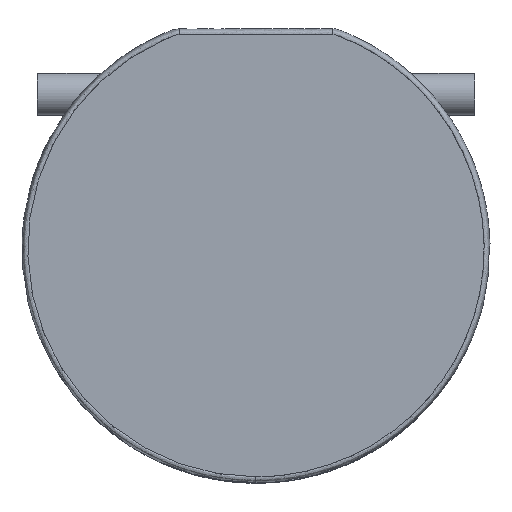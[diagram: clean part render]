
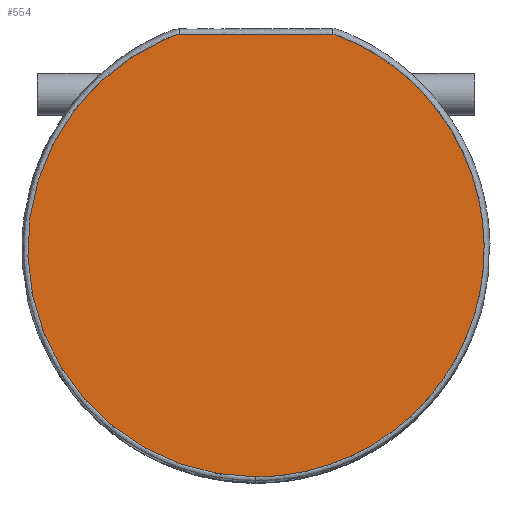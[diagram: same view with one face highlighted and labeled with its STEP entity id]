
A CAD part, top view. The second image highlights one B-rep face of the part: STEP entity #554.
In plain terms, the highlighted planar face has unit normal (0, 0, 1).
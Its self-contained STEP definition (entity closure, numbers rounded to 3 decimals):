
#554=ADVANCED_FACE('',(#1054),#6908,.T.);
#1054=FACE_OUTER_BOUND('',#1572,.T.);
#1572=EDGE_LOOP('',(#3783,#3784,#3785));
#3783=ORIENTED_EDGE('',*,*,#4917,.F.);
#3784=ORIENTED_EDGE('',*,*,#4919,.F.);
#3785=ORIENTED_EDGE('',*,*,#4913,.F.);
#4913=EDGE_CURVE('',#6667,#6670,#5441,.T.);
#4917=EDGE_CURVE('',#6672,#6667,#5445,.T.);
#4919=EDGE_CURVE('',#6670,#6672,#5447,.T.);
#5441=B_SPLINE_CURVE_WITH_KNOTS('',3,(#20366,#20367,#20368,#20369,#20370,
#20371,#20372,#20373,#20374,#20375,#20376,#20377,#20378,#20379,#20380,#20381,
#20382,#20383,#20384,#20385,#20386,#20387,#20388,#20389,#20390,#20391,#20392,
#20393,#20394,#20395,#20396,#20397,#20398,#20399,#20400),.UNSPECIFIED.,
 .F.,.F.,(4,1,1,1,1,1,1,1,1,1,1,1,1,1,1,1,1,1,1,1,1,1,1,1,1,1,1,1,1,1,1,
1,4),(-456.472,-455.787,-455.102,-454.416,
-453.729,-453.048,-452.963,-452.878,
-451.771,-450.663,-448.477,-446.291,
-428.095,-409.421,-390.768,-371.873,
-352.86,-333.858,-314.994,-296.393,
-277.79,-259.682,-238.583,-215.542,-191.57,
-166.883,-141.742,-116.436,-90.748,
-65.516,-41.51,-18.427,0.),.UNSPECIFIED.);
#5445=B_SPLINE_CURVE_WITH_KNOTS('',3,(#20471,#20472,#20473,#20474),
 .UNSPECIFIED.,.F.,.F.,(4,4),(-108.812,0.),.UNSPECIFIED.);
#5447=B_SPLINE_CURVE_WITH_KNOTS('',3,(#20506,#20507,#20508,#20509,#20510,
#20511,#20512,#20513,#20514,#20515,#20516,#20517,#20518,#20519,#20520,#20521,
#20522,#20523,#20524,#20525,#20526,#20527,#20528,#20529,#20530,#20531,#20532,
#20533,#20534,#20535,#20536),.UNSPECIFIED.,.F.,.F.,(4,1,1,1,1,1,1,1,1,1,
1,1,1,1,1,1,1,1,1,1,1,1,1,1,1,1,1,1,4),(-456.44,-434.254,
-411.005,-386.866,-362.063,-336.864,-311.564,
-286.465,-261.856,-237.992,-215.082,
-194.602,-176.805,-158.542,-139.914,
-121.034,-102.026,-83.018,-64.138,
-45.51,-27.247,-9.45,-5.083,
-3.621,-3.579,-3.409,-2.729,
-1.362,0.),.UNSPECIFIED.);
#6667=VERTEX_POINT('',#20292);
#6670=VERTEX_POINT('',#20295);
#6672=VERTEX_POINT('',#20297);
#6908=PLANE('',#7354);
#7354=AXIS2_PLACEMENT_3D('',#17980,#7521,$);
#7521=DIRECTION('',(0.,0.,1.));
#17980=CARTESIAN_POINT('',(-2982.108,-289.711,798.351));
#20292=CARTESIAN_POINT('',(-3092.63,26.579,798.351));
#20295=CARTESIAN_POINT('',(-3147.052,-286.579,798.351));
#20297=CARTESIAN_POINT('',(-3201.442,26.579,798.351));
#20366=CARTESIAN_POINT('',(-3092.63,26.579,798.351));
#20367=CARTESIAN_POINT('',(-3092.434,26.579,798.351));
#20368=CARTESIAN_POINT('',(-3092.043,26.566,798.351));
#20369=CARTESIAN_POINT('',(-3091.457,26.505,798.351));
#20370=CARTESIAN_POINT('',(-3090.877,26.405,798.351));
#20371=CARTESIAN_POINT('',(-3090.306,26.265,798.351));
#20372=CARTESIAN_POINT('',(-3089.91,26.139,798.351));
#20373=CARTESIAN_POINT('',(-3089.682,26.057,798.351));
#20374=CARTESIAN_POINT('',(-3089.31,25.916,798.351));
#20375=CARTESIAN_POINT('',(-3088.589,25.639,798.351));
#20376=CARTESIAN_POINT('',(-3087.24,25.11,798.351));
#20377=CARTESIAN_POINT('',(-3085.56,24.432,798.351));
#20378=CARTESIAN_POINT('',(-3078.682,21.549,798.351));
#20379=CARTESIAN_POINT('',(-3067.098,15.816,798.351));
#20380=CARTESIAN_POINT('',(-3051.653,5.859,798.351));
#20381=CARTESIAN_POINT('',(-3037.267,-5.944,798.351));
#20382=CARTESIAN_POINT('',(-3024.255,-19.403,798.351));
#20383=CARTESIAN_POINT('',(-3012.822,-34.374,798.351));
#20384=CARTESIAN_POINT('',(-3003.214,-50.563,798.351));
#20385=CARTESIAN_POINT('',(-2995.603,-67.633,798.351));
#20386=CARTESIAN_POINT('',(-2990.039,-85.335,798.351));
#20387=CARTESIAN_POINT('',(-2986.574,-103.312,798.351));
#20388=CARTESIAN_POINT('',(-2985.087,-122.384,798.351));
#20389=CARTESIAN_POINT('',(-2985.962,-142.979,798.351));
#20390=CARTESIAN_POINT('',(-2989.954,-165.183,798.351));
#20391=CARTESIAN_POINT('',(-2997.474,-187.719,798.351));
#20392=CARTESIAN_POINT('',(-3008.579,-209.508,798.351));
#20393=CARTESIAN_POINT('',(-3023.131,-229.712,798.351));
#20394=CARTESIAN_POINT('',(-3040.858,-247.67,798.351));
#20395=CARTESIAN_POINT('',(-3061.192,-262.666,798.351));
#20396=CARTESIAN_POINT('',(-3083.226,-274.116,798.351));
#20397=CARTESIAN_POINT('',(-3105.91,-281.84,798.351));
#20398=CARTESIAN_POINT('',(-3127.245,-285.805,798.351));
#20399=CARTESIAN_POINT('',(-3140.964,-286.58,798.351));
#20400=CARTESIAN_POINT('',(-3147.052,-286.579,798.351));
#20471=CARTESIAN_POINT('',(-3201.442,26.579,798.351));
#20472=CARTESIAN_POINT('',(-3165.171,26.579,798.351));
#20473=CARTESIAN_POINT('',(-3128.9,26.579,798.351));
#20474=CARTESIAN_POINT('',(-3092.63,26.579,798.351));
#20506=CARTESIAN_POINT('',(-3147.052,-286.579,798.351));
#20507=CARTESIAN_POINT('',(-3154.383,-286.579,798.351));
#20508=CARTESIAN_POINT('',(-3169.395,-285.554,798.351));
#20509=CARTESIAN_POINT('',(-3191.949,-280.805,798.351));
#20510=CARTESIAN_POINT('',(-3214.394,-272.538,798.351));
#20511=CARTESIAN_POINT('',(-3235.92,-260.694,798.351));
#20512=CARTESIAN_POINT('',(-3255.69,-245.464,798.351));
#20513=CARTESIAN_POINT('',(-3272.942,-227.295,798.351));
#20514=CARTESIAN_POINT('',(-3287.079,-206.847,798.351));
#20515=CARTESIAN_POINT('',(-3297.736,-184.921,798.351));
#20516=CARTESIAN_POINT('',(-3304.809,-162.352,798.351));
#20517=CARTESIAN_POINT('',(-3308.364,-140.361,798.351));
#20518=CARTESIAN_POINT('',(-3308.913,-120.11,798.351));
#20519=CARTESIAN_POINT('',(-3307.227,-101.476,798.351));
#20520=CARTESIAN_POINT('',(-3303.616,-83.741,798.351));
#20521=CARTESIAN_POINT('',(-3297.914,-66.186,798.351));
#20522=CARTESIAN_POINT('',(-3290.131,-49.175,798.351));
#20523=CARTESIAN_POINT('',(-3280.363,-33.074,798.351));
#20524=CARTESIAN_POINT('',(-3268.788,-18.22,798.351));
#20525=CARTESIAN_POINT('',(-3255.657,-4.897,798.351));
#20526=CARTESIAN_POINT('',(-3241.277,6.674,798.351));
#20527=CARTESIAN_POINT('',(-3225.985,16.356,798.351));
#20528=CARTESIAN_POINT('',(-3213.96,22.221,798.351));
#20529=CARTESIAN_POINT('',(-3206.73,25.158,798.351));
#20530=CARTESIAN_POINT('',(-3204.913,25.859,798.351));
#20531=CARTESIAN_POINT('',(-3204.411,26.049,798.351));
#20532=CARTESIAN_POINT('',(-3204.174,26.135,798.351));
#20533=CARTESIAN_POINT('',(-3203.568,26.328,798.351));
#20534=CARTESIAN_POINT('',(-3202.612,26.526,798.351));
#20535=CARTESIAN_POINT('',(-3201.831,26.579,798.351));
#20536=CARTESIAN_POINT('',(-3201.442,26.579,798.351));
